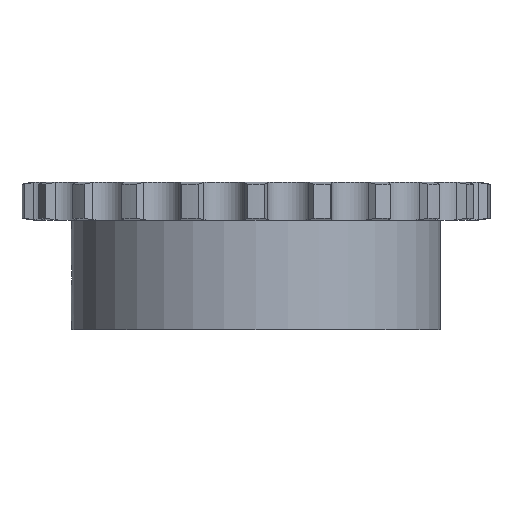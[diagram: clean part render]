
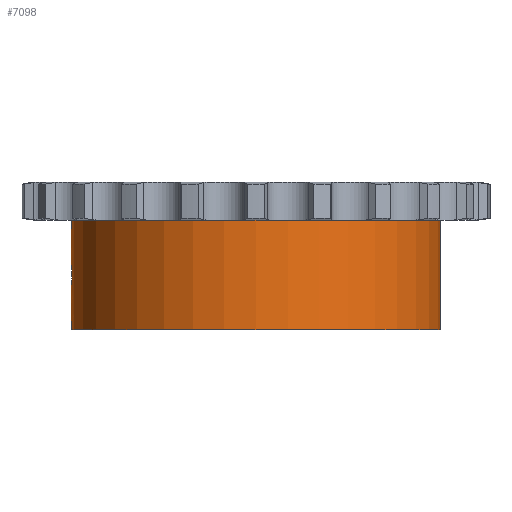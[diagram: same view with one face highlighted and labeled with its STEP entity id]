
A CAD part, front view. The second image highlights one B-rep face of the part: STEP entity #7098.
In plain terms, the highlighted cylindrical face has radius 35 mm (diameter 70 mm), a partial arc.
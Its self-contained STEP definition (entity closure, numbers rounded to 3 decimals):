
#1225=CARTESIAN_POINT('',(0.,0.,-3.6));
#1226=DIRECTION('',(0.,0.,1.));
#1227=DIRECTION('',(-1.,0.,0.));
#1228=AXIS2_PLACEMENT_3D('',#1225,#1226,#1227);
#3556=CARTESIAN_POINT('',(-35.,0.,
-12.));
#3578=DIRECTION('',(0.,0.,1.));
#3579=VECTOR('',#3578,20.8);
#3580=CARTESIAN_POINT('',(35.,0.,-24.4));
#3581=LINE('',#3580,#3579);
#3693=CARTESIAN_POINT('',(-35.,0.,
-12.));
#3694=CARTESIAN_POINT('',(-35.,-0.105,
-12.));
#3695=CARTESIAN_POINT('',(-34.999,-0.313,
-12.016));
#3696=CARTESIAN_POINT('',(-34.995,-0.627,
-12.09));
#3697=CARTESIAN_POINT('',(-34.988,-0.926,
-12.213));
#3698=CARTESIAN_POINT('',(-34.98,-1.198,
-12.38));
#3699=CARTESIAN_POINT('',(-34.971,-1.439,
-12.585));
#3700=CARTESIAN_POINT('',(-34.961,-1.645,
-12.825));
#3701=CARTESIAN_POINT('',(-34.953,-1.812,
-13.097));
#3702=CARTESIAN_POINT('',(-34.947,-1.933,
-13.391));
#3703=CARTESIAN_POINT('',(-34.943,-2.005,
-13.697));
#3704=CARTESIAN_POINT('',(-34.942,-2.02,
-13.899));
#3705=CARTESIAN_POINT('',(-34.942,-2.02,
-14.));
#3710=DIRECTION('',(0.,0.,1.));
#3711=VECTOR('',#3710,8.4);
#3712=CARTESIAN_POINT('',(-35.,0.,
-12.));
#3713=LINE('',#3712,#3711);
#3717=DIRECTION('',(0.,0.,1.));
#3718=VECTOR('',#3717,8.4);
#3719=CARTESIAN_POINT('',(-35.,0.,-24.4));
#3720=LINE('',#3719,#3718);
#3724=CARTESIAN_POINT('',(-34.942,-2.02,
-14.));
#3725=CARTESIAN_POINT('',(-34.942,-2.02,
-14.112));
#3726=CARTESIAN_POINT('',(-34.943,-2.001,
-14.336));
#3727=CARTESIAN_POINT('',(-34.948,-1.913,
-14.675));
#3728=CARTESIAN_POINT('',(-34.956,-1.764,
-14.996));
#3729=CARTESIAN_POINT('',(-34.965,-1.56,
-15.287));
#3730=CARTESIAN_POINT('',(-34.976,-1.311,
-15.535));
#3731=CARTESIAN_POINT('',(-34.986,-1.022,-15.737));
#3732=CARTESIAN_POINT('',(-34.994,-0.697,
-15.889));
#3733=CARTESIAN_POINT('',(-34.999,-0.349,
-15.98));
#3734=CARTESIAN_POINT('',(-35.,-0.117,
-16.));
#3735=CARTESIAN_POINT('',(-35.,0.,
-16.));
#3748=CARTESIAN_POINT('',(0.,0.,-24.4));
#3749=DIRECTION('',(0.,0.,-1.));
#3750=DIRECTION('',(1.,0.,0.));
#3751=AXIS2_PLACEMENT_3D('',#3748,#3749,#3750);
#4139=CARTESIAN_POINT('',(-35.,0.,-24.4));
#4140=CARTESIAN_POINT('',(35.,0.,-24.4));
#4141=VERTEX_POINT('',#4139);
#4142=VERTEX_POINT('',#4140);
#4143=CARTESIAN_POINT('',(35.,0.,-3.6));
#4144=VERTEX_POINT('',#4143);
#4145=CARTESIAN_POINT('',(-35.,0.,-3.6));
#4146=VERTEX_POINT('',#4145);
#4392=VERTEX_POINT('',#3556);
#4395=VERTEX_POINT('',#3705);
#4397=VERTEX_POINT('',#3735);
#7082=CARTESIAN_POINT('',(0.,0.,3.6));
#7083=DIRECTION('',(0.,0.,1.));
#7084=DIRECTION('',(1.,0.,0.));
#7085=AXIS2_PLACEMENT_3D('',#7082,#7083,#7084);
#7086=CYLINDRICAL_SURFACE('',#7085,35.);
#7087=ORIENTED_EDGE('',*,*,#7072,.F.);
#7088=ORIENTED_EDGE('',*,*,#6723,.T.);
#7089=ORIENTED_EDGE('',*,*,#5666,.T.);
#7090=ORIENTED_EDGE('',*,*,#6720,.F.);
#7092=ORIENTED_EDGE('',*,*,#7091,.T.);
#7093=ORIENTED_EDGE('',*,*,#6716,.T.);
#7095=ORIENTED_EDGE('',*,*,#7094,.F.);
#7096=EDGE_LOOP('',(#7087,#7088,#7089,#7090,#7092,#7093,#7095));
#7097=FACE_OUTER_BOUND('',#7096,.F.);
#7098=ADVANCED_FACE('',(#7097),#7086,.T.);
#1229=CIRCLE('',#1228,35.);
#3706=B_SPLINE_CURVE_WITH_KNOTS('',3,(#3693,#3694,#3695,#3696,#3697,#3698,#3699,
#3700,#3701,#3702,#3703,#3704,#3705),.UNSPECIFIED.,.F.,.F.,(4,1,1,1,1,1,1,1,1,1,
4),(0.,0.1,0.2,0.3,0.4,0.5,0.6,0.7,0.8,0.9,1.),
.UNSPECIFIED.);
#3736=B_SPLINE_CURVE_WITH_KNOTS('',3,(#3724,#3725,#3726,#3727,#3728,#3729,#3730,
#3731,#3732,#3733,#3734,#3735),.UNSPECIFIED.,.F.,.F.,(4,1,1,1,1,1,1,1,1,4),
(0.,0.111,0.222,0.333,0.444,
0.556,0.667,0.778,0.889,1.),
.UNSPECIFIED.);
#3752=CIRCLE('',#3751,35.);
#5666=EDGE_CURVE('',#4146,#4144,#1229,.T.);
#6716=EDGE_CURVE('',#4141,#4397,#3720,.T.);
#6720=EDGE_CURVE('',#4142,#4144,#3581,.T.);
#6723=EDGE_CURVE('',#4392,#4146,#3713,.T.);
#7072=EDGE_CURVE('',#4392,#4395,#3706,.T.);
#7091=EDGE_CURVE('',#4142,#4141,#3752,.T.);
#7094=EDGE_CURVE('',#4395,#4397,#3736,.T.);
